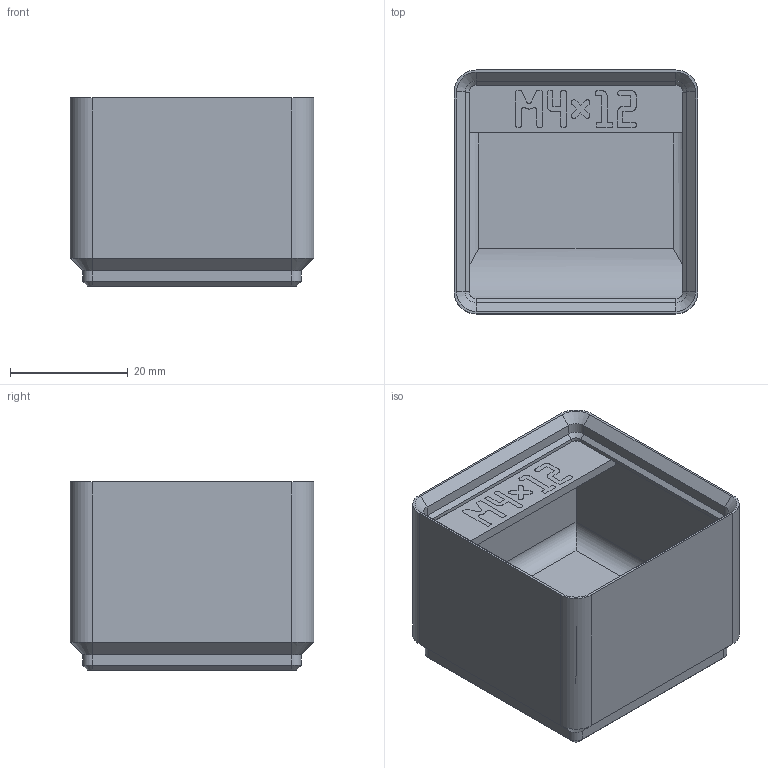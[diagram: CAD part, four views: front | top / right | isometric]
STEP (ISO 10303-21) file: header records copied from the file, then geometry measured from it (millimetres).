
FILE_DESCRIPTION(('Open CASCADE Model'),'2;1');
FILE_NAME('bin_M4_12','2026-11-03T10:52:27',('Author'),('Open CASCADE'), 'Open CASCADE STEP processor 8.0','build123d','Unknown');
FILE_SCHEMA(('AUTOMOTIVE_DESIGN { 1 0 10303 214 1 1 1 1 }'));
Length unit declared in the file: millimetre
Products named in the file (3): bin_M4_12; M4_12_body; M4_12_label
Assembly tree (2 placements, depth 2):
  bin_M4_12
    M4_12_body
    M4_12_label
Bounding box: 41.5 x 41.5 x 32 mm (x, y, z)
Volume: 16774.6 mm3; surface area: 12700.8 mm2
Topology: 6 solids, 6 shells, 1072 faces, 3100 edges, 2046 vertices
Faces by surface type: plane 1032, cylinder 20, cone 20
Entity records: 74871 total; most frequent: CARTESIAN_POINT 12983, DIRECTION 11259, LINE 9000, VECTOR 9000, ORIENTED_EDGE 6200, PCURVE 6200, DEFINITIONAL_REPRESENTATION 6200, EDGE_CURVE 3100
